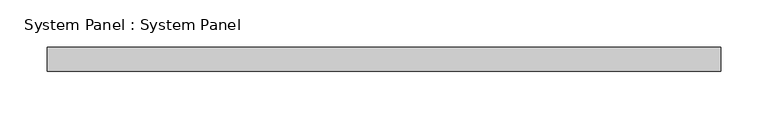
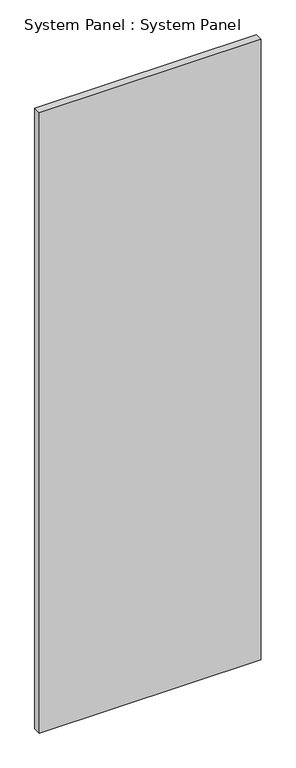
"""IFC4 building model written with IfcOpenShell, lengths in millimetres: plate geometry, System Panel : System Panel."""

from ifc_helpers import new_model, si_unit, origin, origin_with_axes, place, context, project, spatial, polyline, outline, extrude, source, transform, mapped, element, save


def system_panel_system_panel_15dd2017(model_context):
    return source(origin(), model_context, "Body", "SweptSolid", [
        extrude(outline(polyline([(355.0, 24.5), (-355.0, 24.5), (-355.0, 49.5), (355.0, 49.5), (355.0, 24.5)])), origin_with_axes(), (0.0, 0.0, 1.0), 2100.3111283),
    ])


if __name__ == "__main__":
    model = new_model("IFC4")
    model_context = context("Model", 3, world=origin())
    ifc_project = project(units=[si_unit("LENGTHUNIT", "METRE", prefix="MILLI")], contexts=[model_context])
    site = spatial("IfcSite", under=ifc_project)
    building = spatial("IfcBuilding", under=site)
    placement = place(None, origin())
    system_panel_system_panel_shape = system_panel_system_panel_15dd2017(model_context)
    element("IfcPlate", 1, ObjectType="System Panel : System Panel", at=placement, inside=building, context=model_context, shape_type="MappedRepresentation", body=[
        mapped(system_panel_system_panel_shape, transform((0.0, 0.0, 0.0), x_axis=(1.0, 0.0, 0.0), y_axis=(0.0, 1.0, 0.0), z_axis=(0.0, 0.0, 1.0))),
    ])
    save(model, "model.ifc")
